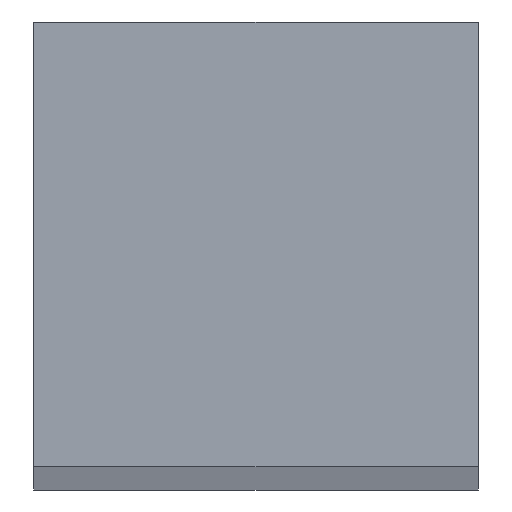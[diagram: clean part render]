
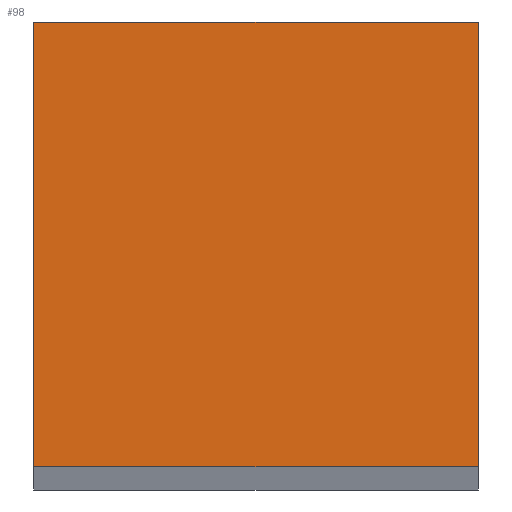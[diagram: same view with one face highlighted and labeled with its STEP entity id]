
A CAD part, top view. The second image highlights one B-rep face of the part: STEP entity #98.
In plain terms, the highlighted planar face has unit normal (0, 0, 1).
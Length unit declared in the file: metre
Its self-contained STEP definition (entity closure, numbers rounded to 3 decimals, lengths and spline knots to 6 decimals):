
#12=ORIENTED_EDGE('',*,*,#36,.F.);
#13=ORIENTED_EDGE('',*,*,#37,.F.);
#14=ORIENTED_EDGE('',*,*,#38,.F.);
#15=ORIENTED_EDGE('',*,*,#39,.F.);
#36=EDGE_CURVE('',#48,#49,#56,.F.);
#37=EDGE_CURVE('',#50,#48,#57,.T.);
#38=EDGE_CURVE('',#51,#50,#58,.T.);
#39=EDGE_CURVE('',#49,#51,#59,.F.);
#48=VERTEX_POINT('',#152);
#49=VERTEX_POINT('',#153);
#50=VERTEX_POINT('',#155);
#51=VERTEX_POINT('',#157);
#56=LINE('',#151,#68);
#57=LINE('',#154,#69);
#58=LINE('',#156,#70);
#59=LINE('',#158,#71);
#68=VECTOR('',#127,1.);
#69=VECTOR('',#128,1.);
#70=VECTOR('',#129,1.);
#71=VECTOR('',#130,1.);
#80=EDGE_LOOP('',(#12,#13,#14,#15));
#86=FACE_BOUND('',#80,.T.);
#92=PLANE('',#117);
#98=ADVANCED_FACE('',(#86),#92,.F.);
#117=AXIS2_PLACEMENT_3D('',#150,#125,#126);
#125=DIRECTION('',(0.,0.,-1.));
#126=DIRECTION('',(-1.,0.,0.));
#127=DIRECTION('',(0.,1.,0.));
#128=DIRECTION('',(1.,0.,0.));
#129=DIRECTION('',(0.,1.,0.));
#130=DIRECTION('',(1.,0.,0.));
#150=CARTESIAN_POINT('',(0.,0.,-0.01165));
#151=CARTESIAN_POINT('',(-0.00475,0.0084,-0.01165));
#152=CARTESIAN_POINT('',(-0.00475,0.0084,-0.01165));
#153=CARTESIAN_POINT('',(-0.00475,0.0079,-0.01165));
#154=CARTESIAN_POINT('',(-0.00475,0.0084,-0.01165));
#155=CARTESIAN_POINT('',(-0.00525,0.0084,-0.01165));
#156=CARTESIAN_POINT('',(-0.00525,0.0084,-0.01165));
#157=CARTESIAN_POINT('',(-0.00525,0.0079,-0.01165));
#158=CARTESIAN_POINT('',(-0.00475,0.0079,-0.01165));
